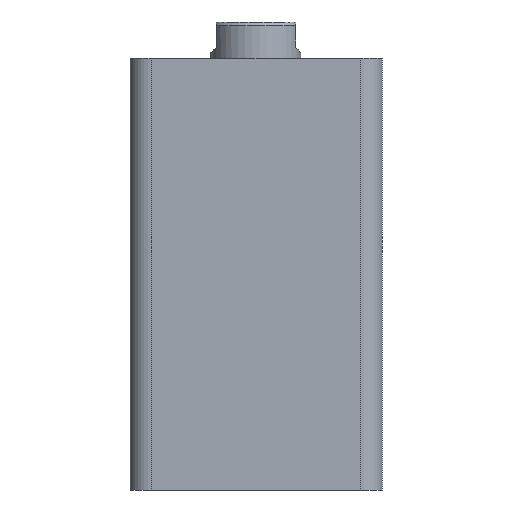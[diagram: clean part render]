
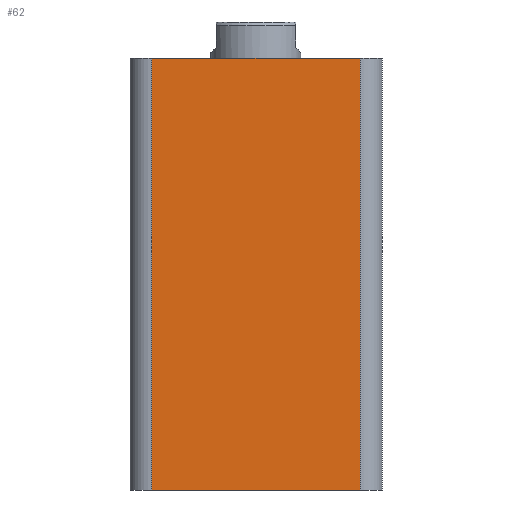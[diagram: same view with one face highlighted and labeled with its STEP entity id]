
A CAD part, front view. The second image highlights one B-rep face of the part: STEP entity #62.
In plain terms, the highlighted planar face has unit normal (0, -1, 0).
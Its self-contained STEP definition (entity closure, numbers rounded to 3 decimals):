
#62 = ADVANCED_FACE ( 'NONE', ( #76 ), #1411, .F. ) ;
#76 = FACE_OUTER_BOUND ( 'NONE', #183, .T. ) ;
#183 = EDGE_LOOP ( 'NONE', ( #626, #633, #621, #624 ) ) ;
#452 = VERTEX_POINT ( 'NONE', #1404 ) ;
#491 = VERTEX_POINT ( 'NONE', #2344 ) ;
#494 = VERTEX_POINT ( 'NONE', #2338 ) ;
#505 = VERTEX_POINT ( 'NONE', #2290 ) ;
#621 = ORIENTED_EDGE ( 'NONE', *, *, #1667, .T. ) ;
#624 = ORIENTED_EDGE ( 'NONE', *, *, #1661, .T. ) ;
#626 = ORIENTED_EDGE ( 'NONE', *, *, #1657, .F. ) ;
#633 = ORIENTED_EDGE ( 'NONE', *, *, #1658, .T. ) ;
#875 = AXIS2_PLACEMENT_3D ( 'NONE', #1415, #1409, #1408 ) ;
#1034 = VECTOR ( 'NONE', #2606, 1000. ) ;
#1036 = LINE ( 'NONE', #2581, #1034 ) ;
#1044 = VECTOR ( 'NONE', #2020, 1000. ) ;
#1048 = VECTOR ( 'NONE', #2025, 1000. ) ;
#1049 = LINE ( 'NONE', #2015, #1044 ) ;
#1050 = VECTOR ( 'NONE', #2028, 1000. ) ;
#1051 = LINE ( 'NONE', #2034, #1050 ) ;
#1053 = LINE ( 'NONE', #2033, #1048 ) ;
#1404 = CARTESIAN_POINT ( 'NONE',  ( -29., -35., 0. ) ) ;
#1408 = DIRECTION ( 'NONE',  ( 0., 0., 1. ) ) ;
#1409 = DIRECTION ( 'NONE',  ( 0., 1., 0. ) ) ;
#1411 = PLANE ( 'NONE',  #875 ) ;
#1415 = CARTESIAN_POINT ( 'NONE',  ( -35., -35., 120. ) ) ;
#1657 = EDGE_CURVE ( 'NONE', #494, #491, #1051, .T. ) ;
#1658 = EDGE_CURVE ( 'NONE', #494, #452, #1053, .T. ) ;
#1661 = EDGE_CURVE ( 'NONE', #505, #491, #1049, .T. ) ;
#1667 = EDGE_CURVE ( 'NONE', #452, #505, #1036, .T. ) ;
#2015 = CARTESIAN_POINT ( 'NONE',  ( 29., -35., 120. ) ) ;
#2020 = DIRECTION ( 'NONE',  ( 0., 0., 1. ) ) ;
#2025 = DIRECTION ( 'NONE',  ( 0., 0., -1. ) ) ;
#2028 = DIRECTION ( 'NONE',  ( 1., 0., 0. ) ) ;
#2033 = CARTESIAN_POINT ( 'NONE',  ( -29., -35., 120. ) ) ;
#2034 = CARTESIAN_POINT ( 'NONE',  ( -35., -35., 120. ) ) ;
#2290 = CARTESIAN_POINT ( 'NONE',  ( 29., -35., 0. ) ) ;
#2338 = CARTESIAN_POINT ( 'NONE',  ( -29., -35., 120. ) ) ;
#2344 = CARTESIAN_POINT ( 'NONE',  ( 29., -35., 120. ) ) ;
#2581 = CARTESIAN_POINT ( 'NONE',  ( -35., -35., 0. ) ) ;
#2606 = DIRECTION ( 'NONE',  ( 1., 0., 0. ) ) ;
